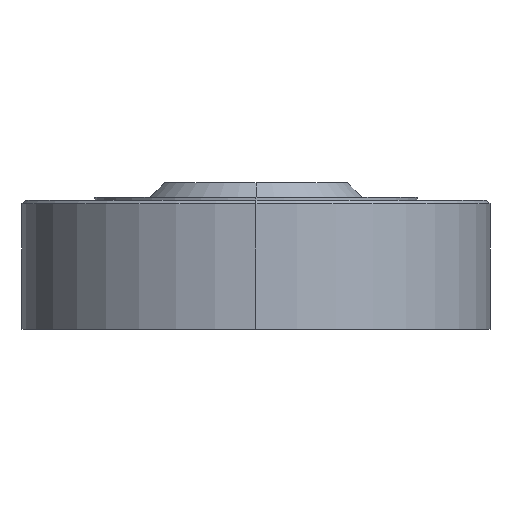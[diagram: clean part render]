
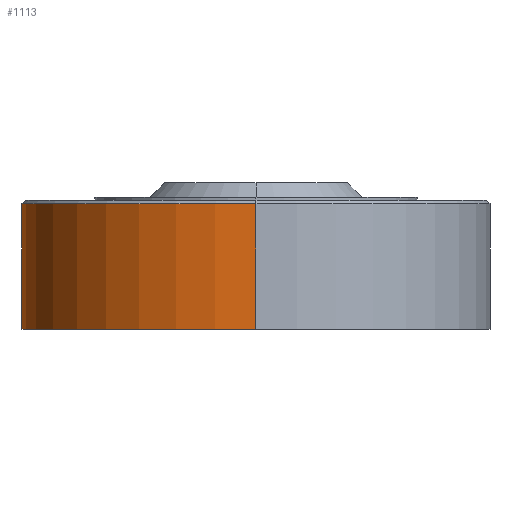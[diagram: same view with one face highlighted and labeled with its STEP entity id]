
A CAD part, left-side view. The second image highlights one B-rep face of the part: STEP entity #1113.
In plain terms, the highlighted cylindrical face has radius 101.575 mm (diameter 203.149 mm), a partial arc.
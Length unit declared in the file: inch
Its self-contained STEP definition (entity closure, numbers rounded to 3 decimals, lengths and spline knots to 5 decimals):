
#248 = EDGE_CURVE ( 'NONE', #1191, #853, #2493, .T. ) ;
#632 = VERTEX_POINT ( 'NONE', #3092 ) ;
#643 = VERTEX_POINT ( 'NONE', #3112 ) ;
#776 = EDGE_CURVE ( 'NONE', #632, #2320, #3596, .T. ) ;
#843 = VERTEX_POINT ( 'NONE', #3909 ) ;
#853 = VERTEX_POINT ( 'NONE', #3930 ) ;
#864 = EDGE_CURVE ( 'NONE', #2320, #1191, #3962, .T. ) ;
#897 = EDGE_CURVE ( 'NONE', #853, #643, #4180, .T. ) ;
#965 = ORIENTED_EDGE ( 'NONE', *, *, #897, .T. ) ;
#1082 = EDGE_LOOP ( 'NONE', ( #1767, #1780, #3277, #1235, #4346, #1680, #965, #3169 ) ) ;
#1113 = ADVANCED_FACE ( 'NONE', ( #5210 ), #5211, .T. ) ;
#1191 = VERTEX_POINT ( 'NONE', #5486 ) ;
#1235 = ORIENTED_EDGE ( 'NONE', *, *, #776, .T. ) ;
#1350 = EDGE_CURVE ( 'NONE', #2233, #5464, #6144, .T. ) ;
#1680 = ORIENTED_EDGE ( 'NONE', *, *, #248, .T. ) ;
#1767 = ORIENTED_EDGE ( 'NONE', *, *, #2191, .T. ) ;
#1780 = ORIENTED_EDGE ( 'NONE', *, *, #1350, .T. ) ;
#2191 = EDGE_CURVE ( 'NONE', #843, #2233, #4362, .T. ) ;
#2233 = VERTEX_POINT ( 'NONE', #4555 ) ;
#2320 = VERTEX_POINT ( 'NONE', #4993 ) ;
#2493 = LINE ( 'NONE', #2494, #2495 ) ;
#2494 = CARTESIAN_POINT ( 'NONE',  ( 3.999, 0., -0.11 ) ) ;
#2495 = VECTOR ( 'NONE', #2501, 39.37008 ) ;
#2501 = DIRECTION ( 'NONE',  ( 0., 0., -1. ) ) ;
#3092 = CARTESIAN_POINT ( 'NONE',  ( 3.9657, 0.515, -0.61 ) ) ;
#3112 = CARTESIAN_POINT ( 'NONE',  ( -3.999, 0., -2.25 ) ) ;
#3169 = ORIENTED_EDGE ( 'NONE', *, *, #5369, .F. ) ;
#3277 = ORIENTED_EDGE ( 'NONE', *, *, #5552, .T. ) ;
#3596 = LINE ( 'NONE', #3597, #3598 ) ;
#3597 = CARTESIAN_POINT ( 'NONE',  ( 3.9657, 0.515, -0.11 ) ) ;
#3598 = VECTOR ( 'NONE', #3599, 39.37008 ) ;
#3599 = DIRECTION ( 'NONE',  ( 0., 0., -1. ) ) ;
#3909 = CARTESIAN_POINT ( 'NONE',  ( -3.999, 0., -0.11 ) ) ;
#3930 = CARTESIAN_POINT ( 'NONE',  ( 3.999, 0., -2.25 ) ) ;
#3962 = CIRCLE ( 'NONE', #3963, 3.999 ) ;
#3963 = AXIS2_PLACEMENT_3D ( 'NONE', #3964, #3965, #3966 ) ;
#3964 = CARTESIAN_POINT ( 'NONE',  ( 0., 0., -1.64 ) ) ;
#3965 = DIRECTION ( 'NONE',  ( 0., 0., -1. ) ) ;
#3966 = DIRECTION ( 'NONE',  ( -1., 0., 0. ) ) ;
#4180 = CIRCLE ( 'NONE', #4184, 3.999 ) ;
#4184 = AXIS2_PLACEMENT_3D ( 'NONE', #4185, #4186, #4187 ) ;
#4185 = CARTESIAN_POINT ( 'NONE',  ( 0., 0., -2.25 ) ) ;
#4186 = DIRECTION ( 'NONE',  ( 0., 0., 1. ) ) ;
#4187 = DIRECTION ( 'NONE',  ( -1., 0., 0. ) ) ;
#4346 = ORIENTED_EDGE ( 'NONE', *, *, #864, .T. ) ;
#4362 = CIRCLE ( 'NONE', #4363, 3.999 ) ;
#4363 = AXIS2_PLACEMENT_3D ( 'NONE', #4364, #4365, #4366 ) ;
#4364 = CARTESIAN_POINT ( 'NONE',  ( 0., 0., -0.11 ) ) ;
#4365 = DIRECTION ( 'NONE',  ( 0., 0., -1. ) ) ;
#4366 = DIRECTION ( 'NONE',  ( -1., 0., 0. ) ) ;
#4555 = CARTESIAN_POINT ( 'NONE',  ( 3.999, 0., -0.11 ) ) ;
#4993 = CARTESIAN_POINT ( 'NONE',  ( 3.9657, 0.515, -1.64 ) ) ;
#5210 = FACE_OUTER_BOUND ( 'NONE', #1082, .T. ) ;
#5211 = CYLINDRICAL_SURFACE ( 'NONE', #5212, 3.999 ) ;
#5212 = AXIS2_PLACEMENT_3D ( 'NONE', #5213, #5214, #5215 ) ;
#5213 = CARTESIAN_POINT ( 'NONE',  ( 0., 0., -0.11 ) ) ;
#5214 = DIRECTION ( 'NONE',  ( 0., 0., -1. ) ) ;
#5215 = DIRECTION ( 'NONE',  ( -1., 0., 0. ) ) ;
#5369 = EDGE_CURVE ( 'NONE', #843, #643, #6779, .T. ) ;
#5464 = VERTEX_POINT ( 'NONE', #6841 ) ;
#5486 = CARTESIAN_POINT ( 'NONE',  ( 3.999, 0., -1.64 ) ) ;
#5552 = EDGE_CURVE ( 'NONE', #5464, #632, #6872, .T. ) ;
#6144 = LINE ( 'NONE', #6145, #6146 ) ;
#6145 = CARTESIAN_POINT ( 'NONE',  ( 3.999, 0., -0.11 ) ) ;
#6146 = VECTOR ( 'NONE', #6147, 39.37008 ) ;
#6147 = DIRECTION ( 'NONE',  ( 0., 0., -1. ) ) ;
#6779 = LINE ( 'NONE', #6780, #6781 ) ;
#6780 = CARTESIAN_POINT ( 'NONE',  ( -3.999, 0., -0.11 ) ) ;
#6781 = VECTOR ( 'NONE', #6782, 39.37008 ) ;
#6782 = DIRECTION ( 'NONE',  ( 0., 0., -1. ) ) ;
#6841 = CARTESIAN_POINT ( 'NONE',  ( 3.999, 0., -0.61 ) ) ;
#6872 = CIRCLE ( 'NONE', #6873, 3.999 ) ;
#6873 = AXIS2_PLACEMENT_3D ( 'NONE', #6874, #6875, #6876 ) ;
#6874 = CARTESIAN_POINT ( 'NONE',  ( 0., 0., -0.61 ) ) ;
#6875 = DIRECTION ( 'NONE',  ( 0., 0., 1. ) ) ;
#6876 = DIRECTION ( 'NONE',  ( -1., 0., 0. ) ) ;
